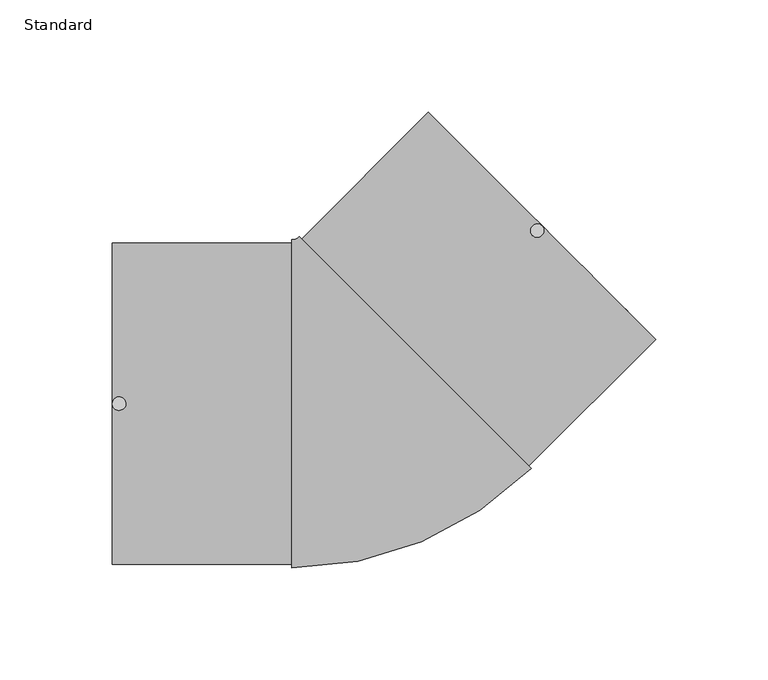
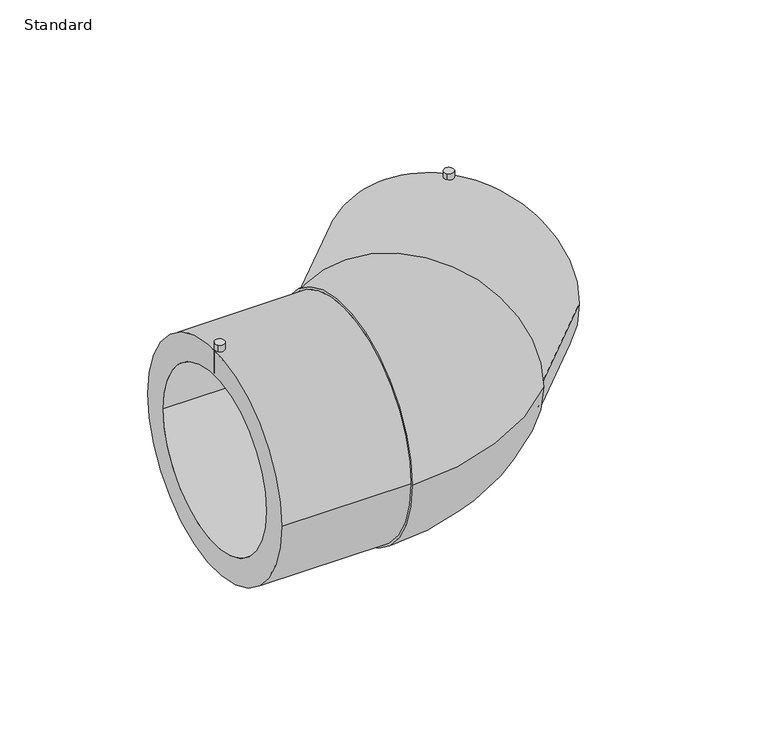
"""IFC4 building model written with IfcOpenShell, lengths in millimetres: pipe fitting geometry, EGB_VASEN_ PPR_Codo electrosoldable 90 WXRD200_Codo electrosoldable 45 WXRD220 : Standard."""

from ifc_helpers import new_model, si_unit, point, frame, frame_2d, origin, place, context, project, spatial, polyline, circle_curve, ellipse_curve, trimmed, segment, composite_curve, outline, extrude, source, transform, mapped, element, save
from ifc_brep_helpers import plane_surface, cylinder_surface, revolved_surface, advanced_brep


def standard_4a06967d(model_context):
    return source(origin(), model_context, "Body", "SolidModel", [
        advanced_brep(
        [(-112.0, -71.5, 0.0), (-112.0, 71.5, 0.0), (-112.0, -55.0, 0.0), (-112.0, 55.0, 0.0), (-32.2375901, -71.5, 0.0), (-32.2375901, 71.5, 0.0), (-32.2375901, -55.0, 0.0), (-32.2375901, 55.0, 0.0), (-32.2375901, -73.0, 0.0), (-32.2375901, 73.0, 0.0), (74.4142136, -28.8233765, 0.0), (-28.8233765, 74.4142136, 0.0), (73.3535534, -27.7627163, 0.0), (-27.7627163, 73.3535534, 0.0), (61.6862915, -16.0954544, 0.0), (-16.0954544, 61.6862915, 0.0), (129.7540943, 28.6378246, 0.0), (28.6378246, 129.7540943, 0.0), (118.0868325, 40.3050865, 0.0), (40.3050865, 118.0868325, 0.0)],
        [
            (0, 1, circle_curve(frame((-112.0, 0.0, 0.0), z_axis=(-1.0, 0.0, 0.0), x_axis=(0.0, 1.0, 0.0)), 71.5)),
            (1, 0, circle_curve(frame((-112.0, 0.0, 0.0), z_axis=(-1.0, 0.0, 0.0), x_axis=(0.0, 1.0, 0.0)), 71.5)),
            (2, 3, circle_curve(frame((-112.0, 0.0, 0.0), z_axis=(1.0, 0.0, 0.0), x_axis=(0.0, 1.0, 0.0)), 55.0)),
            (3, 2, circle_curve(frame((-112.0, 0.0, 0.0), z_axis=(1.0, 0.0, 0.0), x_axis=(0.0, 1.0, 0.0)), 55.0)),
            (0, 4),
            (4, 5, circle_curve(frame((-32.2375901, 0.0, 0.0), z_axis=(-1.0, 0.0, 0.0), x_axis=(0.0, 1.0, 0.0)), 71.5)),
            (5, 1),
            (5, 4, circle_curve(frame((-32.2375901, 0.0, 0.0), z_axis=(-1.0, 0.0, 0.0), x_axis=(0.0, 1.0, 0.0)), 71.5)),
            (2, 6),
            (6, 7, circle_curve(frame((-32.2375901, 0.0, 0.0), z_axis=(1.0, 0.0, 0.0), x_axis=(0.0, 1.0, 0.0)), 55.0)),
            (7, 3),
            (7, 6, circle_curve(frame((-32.2375901, 0.0, 0.0), z_axis=(1.0, 0.0, 0.0), x_axis=(0.0, 1.0, 0.0)), 55.0)),
            (8, 9, circle_curve(frame((-32.2375901, 0.0, 0.0), z_axis=(-1.0, 0.0, 0.0), x_axis=(0.0, 1.0, 0.0)), 73.0)),
            (9, 8, circle_curve(frame((-32.2375901, 0.0, 0.0), z_axis=(-1.0, 0.0, 0.0), x_axis=(0.0, 1.0, 0.0)), 73.0)),
            (10, 11, circle_curve(frame((22.7954185, 22.7954185, 0.0), z_axis=(0.7071067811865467, 0.7071067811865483, 0.0), x_axis=(-0.7071067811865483, 0.7071067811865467, 0.0)), 73.0)),
            (11, 10, circle_curve(frame((22.7954185, 22.7954185, 0.0), z_axis=(0.7071067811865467, 0.7071067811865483, 0.0), x_axis=(-0.7071067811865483, 0.7071067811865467, 0.0)), 73.0)),
            (12, 13, circle_curve(frame((22.7954185, 22.7954185, 0.0), z_axis=(-0.7071067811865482, -0.7071067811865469, 0.0), x_axis=(-0.7071067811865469, 0.7071067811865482, 0.0)), 71.5)),
            (13, 12, circle_curve(frame((22.7954185, 22.7954185, 0.0), z_axis=(-0.7071067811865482, -0.7071067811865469, 0.0), x_axis=(-0.7071067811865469, 0.7071067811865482, 0.0)), 71.5)),
            (14, 15, circle_curve(frame((22.7954185, 22.7954185, 0.0), z_axis=(0.7071067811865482, 0.7071067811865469, 0.0), x_axis=(-0.7071067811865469, 0.7071067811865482, 0.0)), 55.0)),
            (15, 14, circle_curve(frame((22.7954185, 22.7954185, 0.0), z_axis=(0.7071067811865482, 0.7071067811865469, 0.0), x_axis=(-0.7071067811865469, 0.7071067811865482, 0.0)), 55.0)),
            (8, 10, circle_curve(frame((-32.2375901, 77.8284271, 0.0), z_axis=(0.0, 0.0, 1.0), x_axis=(0.0, -1.0, 0.0)), 150.8284271)),
            (11, 9, circle_curve(frame((-32.2375901, 77.8284271, 0.0), z_axis=(0.0, 0.0, -1.0), x_axis=(0.0, -1.0, 0.0)), 4.8284271)),
            (16, 17, circle_curve(frame((79.1959595, 79.1959595, 0.0), z_axis=(0.7071067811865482, 0.7071067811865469, 0.0), x_axis=(-0.7071067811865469, 0.7071067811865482, 0.0)), 71.5)),
            (17, 16, circle_curve(frame((79.1959595, 79.1959595, 0.0), z_axis=(0.7071067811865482, 0.7071067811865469, 0.0), x_axis=(-0.7071067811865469, 0.7071067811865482, 0.0)), 71.5)),
            (18, 19, circle_curve(frame((79.1959595, 79.1959595, 0.0), z_axis=(-0.7071067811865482, -0.7071067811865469, 0.0), x_axis=(-0.7071067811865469, 0.7071067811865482, 0.0)), 55.0)),
            (19, 18, circle_curve(frame((79.1959595, 79.1959595, 0.0), z_axis=(-0.7071067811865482, -0.7071067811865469, 0.0), x_axis=(-0.7071067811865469, 0.7071067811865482, 0.0)), 55.0)),
            (17, 13),
            (12, 16),
            (19, 15),
            (14, 18),
        ],
        [
            plane_surface(frame((-112.0, 0.0, 0.0), z_axis=(-1.0, 0.0, 0.0), x_axis=(0.0, 0.0, 1.0))),
            cylinder_surface(frame((-112.0, 0.0, 0.0), z_axis=(-1.0, 0.0, 0.0), x_axis=(0.0, 1.0, 0.0)), 71.5),
            revolved_surface(polyline([(-32.237590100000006, 55.0, 0.0), (-112.0, 55.0, 0.0)]), (-112.0, 0.0, 0.0), (1.0, 0.0, 0.0)),
            plane_surface(frame((-32.2375901, 0.0, 0.0), z_axis=(-1.0, 0.0, 0.0), x_axis=(0.0, 0.0, 1.0))),
            plane_surface(frame((22.7954185, 22.7954185, 0.0), z_axis=(0.7071067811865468, 0.7071067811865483, 0.0), x_axis=(0.0, 0.0, 1.0))),
            revolved_surface(trimmed(ellipse_curve(frame((-32.2375901, 0.0, 0.0), z_axis=(-1.0, 0.0, 0.0), x_axis=(0.0, 1.0, 0.0)), 73.0, 73.0), [point((-32.2375901, -73.0, 0.0))], [point((-32.2375901, 73.0, 0.0))], True, "CARTESIAN"), (-32.2375901, 77.8284271, 0.0), (0.0, 0.0, 1.0)),
            revolved_surface(trimmed(ellipse_curve(frame((-32.2375901, 0.0, 0.0), z_axis=(-1.0, 0.0, 0.0), x_axis=(0.0, 1.0, 0.0)), 73.0, 73.0), [point((-32.2375901, 73.0, 0.0))], [point((-32.2375901, -73.0, 0.0))], True, "CARTESIAN"), (-32.2375901, 77.8284271, 0.0), (0.0, 0.0, 1.0)),
            plane_surface(frame((79.1959595, 79.1959595, 0.0), z_axis=(0.7071067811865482, 0.7071067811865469, 0.0), x_axis=(0.0, 0.0, 1.0))),
            cylinder_surface(frame((22.7954185, 22.7954185, 0.0), z_axis=(-0.7071067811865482, -0.7071067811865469, 0.0), x_axis=(-0.7071067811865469, 0.7071067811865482, 0.0)), 71.5),
            revolved_surface(polyline([(40.30508653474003, 118.08683246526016, 0.0), (-16.09545446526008, 61.686291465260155, 0.0)]), (22.7954185, 22.7954185, 0.0), (0.7071067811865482, 0.7071067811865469, 0.0)),
        ],
        [
            (0, [[1, 2], [3, 4]]),
            (1, [[-1, 5, 6, 7]]),
            (1, [[-2, -7, 8, -5]]),
            (2, [[-3, 9, 10, 11]]),
            (2, [[-4, -11, 12, -9]]),
            (3, [[-10, -12]]),
            (3, [[13, 14], [-6, -8]]),
            (4, [[15, 16], [17, 18]]),
            (4, [[19, 20]]),
            (5, [[-13, 21, -16, 22]]),
            (6, [[-14, -22, -15, -21]]),
            (7, [[23, 24], [25, 26]]),
            (8, [[-24, 27, -17, 28]]),
            (8, [[-23, -28, -18, -27]]),
            (9, [[-26, 29, -19, 30]]),
            (9, [[-25, -30, -20, -29]]),
        ],
    ),
        extrude(outline(composite_curve([segment(trimmed(circle_curve(frame_2d((77.0746391, 77.0746391)), 3.0), [point((74.9533188, 74.9533188))], [point((79.1959595, 79.1959595))], False, "CARTESIAN"), True, "CONTINUOUS"), segment(trimmed(circle_curve(frame_2d((77.0746391, 77.0746391)), 3.0), [point((79.1959595, 79.1959595))], [point((74.9533188, 74.9533188))], False, "CARTESIAN"), True, "CONTINUOUS")], self_intersect=False)), frame((0.0, 0.0, 56.0), z_axis=(0.0, 0.0, 1.0), x_axis=(1.0, 0.0, 0.0)), (0.0, 0.0, 1.0), 20.0),
        extrude(outline(composite_curve([segment(trimmed(circle_curve(frame_2d((-109.0, 0.0)), 3.0), [point((-111.1213203, -2.1213203))], [point((-106.8786797, 2.1213203))], False, "CARTESIAN"), True, "CONTINUOUS"), segment(trimmed(circle_curve(frame_2d((-109.0, 0.0)), 3.0), [point((-106.8786797, 2.1213203))], [point((-111.1213203, -2.1213203))], False, "CARTESIAN"), True, "CONTINUOUS")], self_intersect=False)), frame((0.0, 0.0, 56.0), z_axis=(0.0, 0.0, 1.0), x_axis=(1.0, 0.0, 0.0)), (0.0, 0.0, 1.0), 20.0),
    ])


if __name__ == "__main__":
    model = new_model("IFC4")
    model_context = context("Model", 3, world=origin())
    ifc_project = project(units=[si_unit("LENGTHUNIT", "METRE", prefix="MILLI")], contexts=[model_context])
    site = spatial("IfcSite", under=ifc_project)
    building = spatial("IfcBuilding", under=site)
    placement = place(None, origin())
    standard_shape = standard_4a06967d(model_context)
    element("IfcPipeFitting", 1, ObjectType="EGB_VASEN_ PPR_Codo electrosoldable 90 WXRD200_Codo electrosoldable 45 WXRD220 : Standard", at=placement, inside=building, context=model_context, shape_type="MappedRepresentation", body=[
        mapped(standard_shape, transform((0.0, 0.0, 0.0), x_axis=(1.0, 0.0, 0.0), y_axis=(0.0, 1.0, 0.0), z_axis=(0.0, 0.0, 1.0))),
    ])
    save(model, "model.ifc")
